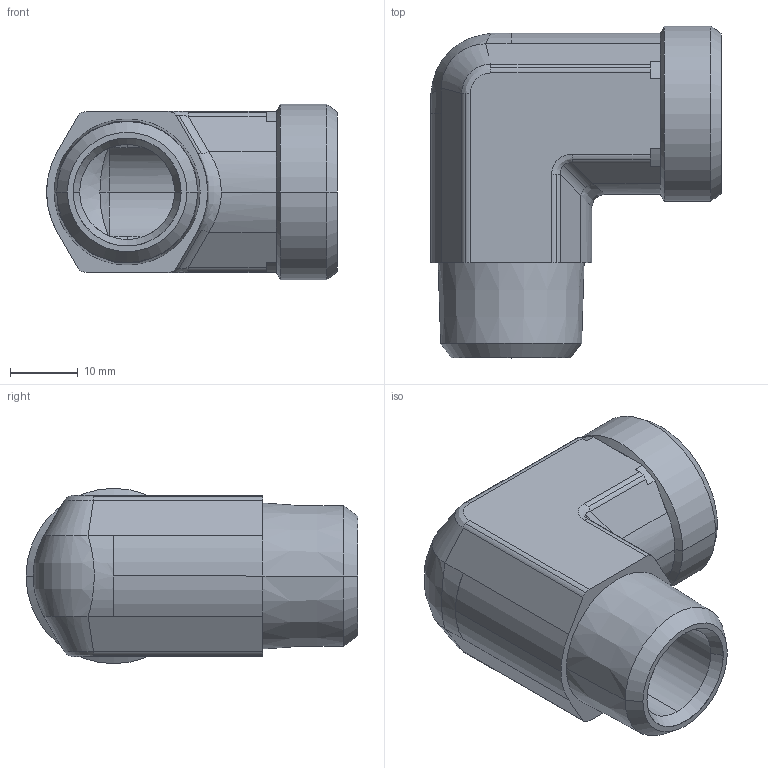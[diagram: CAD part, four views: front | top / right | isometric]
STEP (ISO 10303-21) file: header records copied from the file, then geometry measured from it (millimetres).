
FILE_DESCRIPTION((''),'2;1');
FILE_NAME('102009.stp','2007-10-30T16:29:06',(''),(''),'AutoCAD STEP 2000i','AutoCAD 2000i',', , ');
FILE_SCHEMA(('CONFIG_CONTROL_DESIGN'));
Length unit declared in the file: millimetre
Products named in the file (2): 102009.0; 3090#0
Assembly tree (1 placements, depth 2):
  102009.0
    3090#0
Bounding box: 42.88 x 48.92 x 25.85 mm (x, y, z)
Volume: 18229.6 mm3; surface area: 8638.4 mm2
Topology: 1 solids, 1 shells, 103 faces, 250 edges, 153 vertices
Faces by surface type: cylinder 44, plane 26, cone 19, bspline 14
Entity records: 3980 total; most frequent: CARTESIAN_POINT 1462, DIRECTION 523, ORIENTED_EDGE 500, EDGE_CURVE 250, AXIS2_PLACEMENT_3D 210, VERTEX_POINT 153, CIRCLE 109, EDGE_LOOP 109
